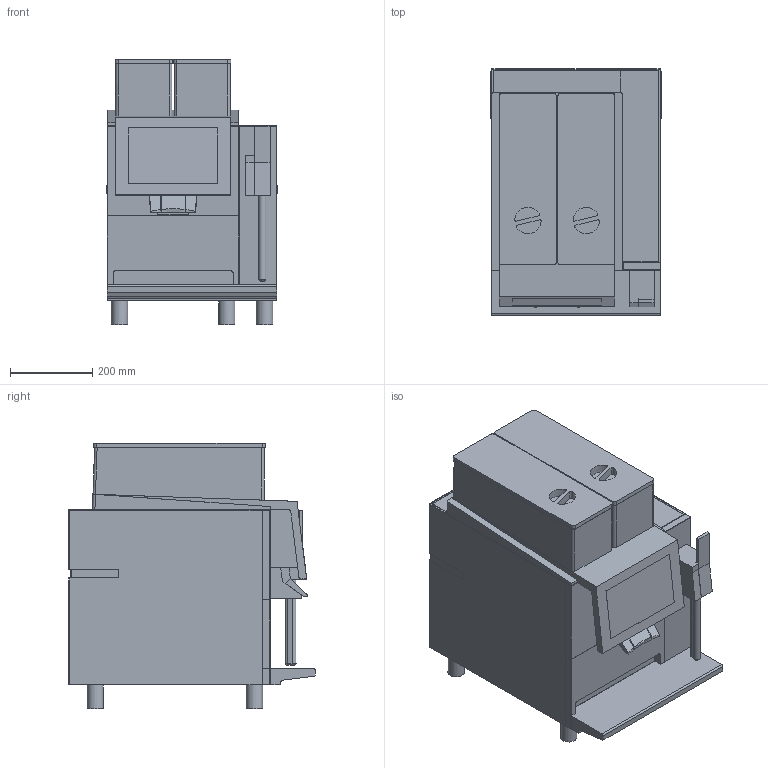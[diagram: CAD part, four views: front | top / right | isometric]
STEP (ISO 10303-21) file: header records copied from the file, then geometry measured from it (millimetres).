
FILE_DESCRIPTION(/* description */ ('Unknown'),/* implementation_level */ '2;1');
FILE_NAME(/* name */ 'HM_BW4-CTS',/* time_stamp */ '2026-08-14T11:15:37+02:00',/* author */ ('Unknown'),/* organization */ ('Unknown'),/* preprocessor_version */ 'ST-DEVELOPER v20',/* originating_system */ 'Solid Edge',/* authorisation */ 'Unknown');
FILE_SCHEMA (('AUTOMOTIVE_DESIGN {1 0 10303 214 3 1 1}'));
Length unit declared in the file: millimetre
Products named in the file (1): HM_BW4-CTS
Bounding box: 413.3 x 599.39 x 645.65 mm (x, y, z)
Volume: 109551023.2 mm3; surface area: 1933307.6 mm2
Topology: 1 solids, 1 shells, 298 faces, 811 edges, 520 vertices
Faces by surface type: plane 220, cylinder 72, sphere 4, cone 2
Full cylindrical faces by diameter (mm): 40 x6
Entity records: 11365 total; most frequent: CARTESIAN_POINT 1614, ORIENTED_EDGE 1596, DIRECTION 1560, EDGE_CURVE 798, LINE 634, VECTOR 634, VERTEX_POINT 517, AXIS2_PLACEMENT_3D 463
